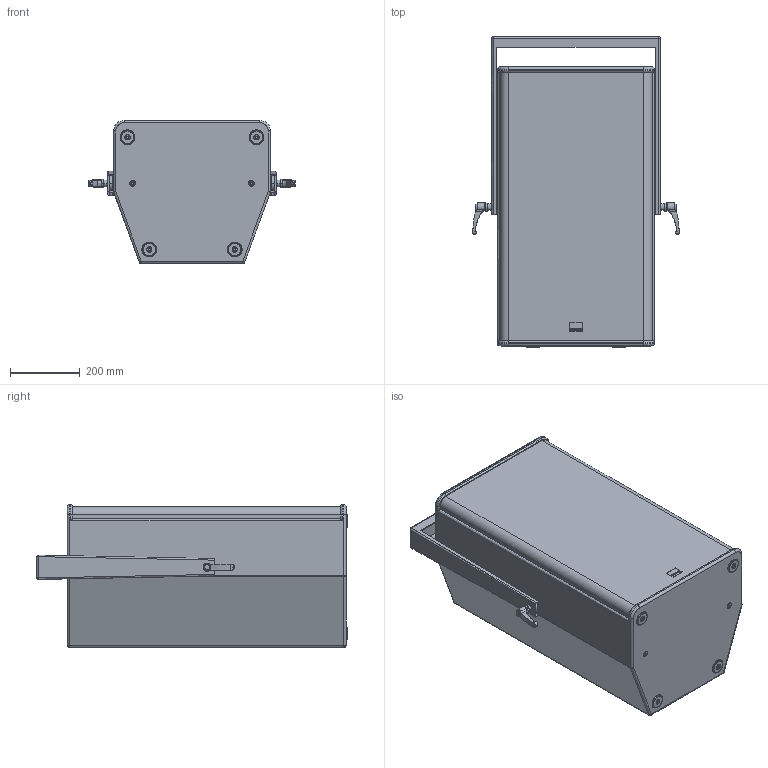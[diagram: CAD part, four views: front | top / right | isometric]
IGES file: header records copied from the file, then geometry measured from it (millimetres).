
Start section: SolidWorks IGES file using analytic representation for surfaces
Global section: file name: C:\Dokumente und Einstellungen\PC_Fabian\Desktop\F-Serie\Seeburg_F8_Bracket.IGS; native system: SolidWorks 2009; preprocessor: SolidWorks 2009; author: PC_Fabian; date: 121015.145329; units: millimetre
Bounding box: 591.25 x 889.5 x 410 mm (x, y, z)
Surface area: 3453760.7 mm2 (no closed solid volume)
Topology: 0 solids, 0 shells, 704 faces, 9959 edges, 9955 vertices
Faces by surface type: revolution 373, bspline 331
